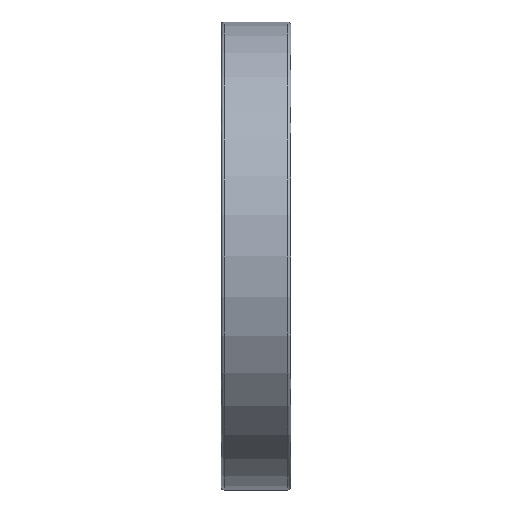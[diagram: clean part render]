
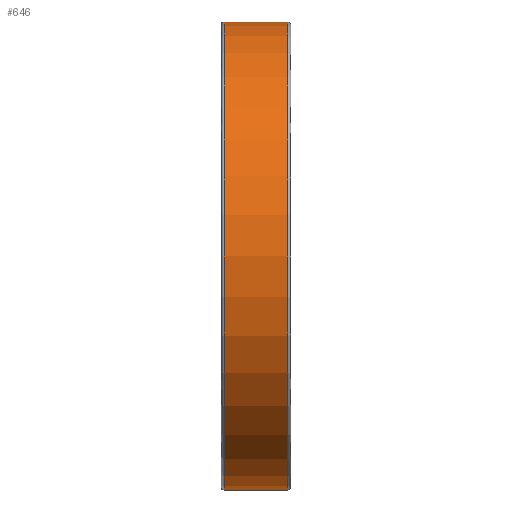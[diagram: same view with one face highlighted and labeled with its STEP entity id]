
A CAD part, front view. The second image highlights one B-rep face of the part: STEP entity #646.
In plain terms, the highlighted cylindrical face has radius 23.5 mm (diameter 47 mm), a full revolution.
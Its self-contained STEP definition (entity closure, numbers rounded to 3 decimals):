
#185=CYLINDRICAL_SURFACE('',#1030,23.5);
#309=EDGE_LOOP('',(#445));
#310=EDGE_LOOP('',(#446));
#445=ORIENTED_EDGE('',*,*,#521,.F.);
#446=ORIENTED_EDGE('',*,*,#519,.T.);
#519=EDGE_CURVE('',#945,#945,#539,.T.);
#521=EDGE_CURVE('',#947,#947,#541,.T.);
#539=CIRCLE('',#1026,23.5);
#541=CIRCLE('',#1029,23.5);
#646=ADVANCED_FACE('',(#823,#824),#185,.T.);
#823=FACE_BOUND('',#309,.T.);
#824=FACE_BOUND('',#310,.T.);
#945=VERTEX_POINT('',#4146);
#947=VERTEX_POINT('',#4151);
#1026=AXIS2_PLACEMENT_3D('',#4145,#1172,#1173);
#1029=AXIS2_PLACEMENT_3D('',#4150,#1178,#1179);
#1030=AXIS2_PLACEMENT_3D('',#4152,#1180,#1181);
#1172=DIRECTION('',(1.,0.,0.));
#1173=DIRECTION('',(0.,0.,-1.));
#1178=DIRECTION('',(1.,0.,0.));
#1179=DIRECTION('',(0.,0.,-1.));
#1180=DIRECTION('',(1.,0.,0.));
#1181=DIRECTION('',(0.,0.,-1.));
#4145=CARTESIAN_POINT('',(-3.2,0.,0.));
#4146=CARTESIAN_POINT('',(-3.2,0.,-23.5));
#4150=CARTESIAN_POINT('',(3.2,0.,0.));
#4151=CARTESIAN_POINT('',(3.2,0.,-23.5));
#4152=CARTESIAN_POINT('',(-3.2,0.,0.));
